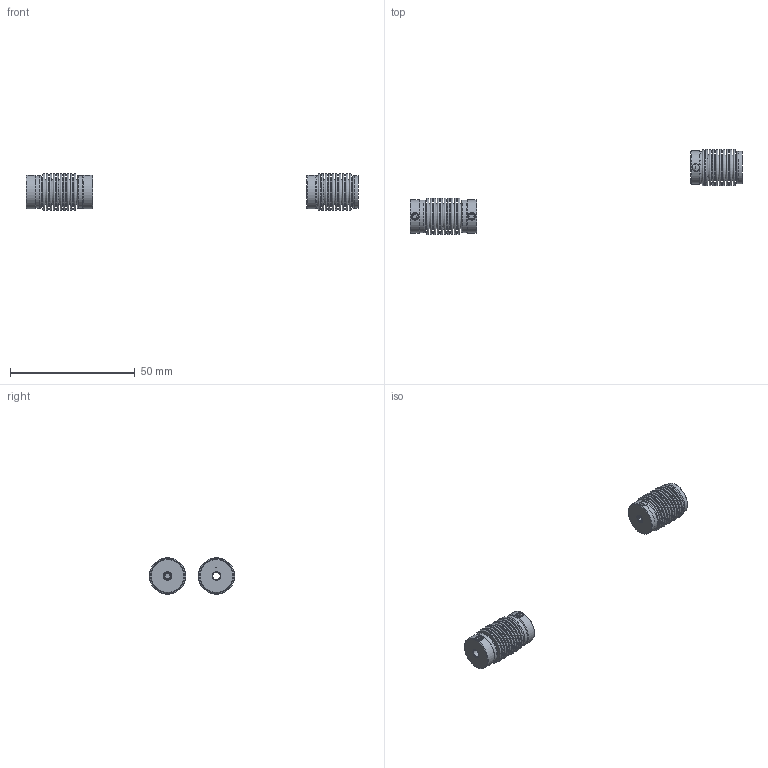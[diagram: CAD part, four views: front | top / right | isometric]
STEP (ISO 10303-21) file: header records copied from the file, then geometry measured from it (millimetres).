
FILE_DESCRIPTION( ( 'Unknown' ), '1' );
FILE_NAME( 'C:/Dokumente und Einstellungen/Sven/Desktop/cad - homepage/KB1/KB1-5-27.stp', 'Unknown', ( 'Unknown' ), ( 'Unknown' ), 'XStep 1.0', 'Unknown', ' ' );
FILE_SCHEMA( ( 'automotive_design' ) );
Length unit declared in the file: millimetre
Products named in the file (4): Assem1; MN5_Standard_1; Socket Set Screw Cup Point_DIN_DIN 916 - M3 x 4-N_5; BL5_Standard
Bounding box: 133.13 x 34.16 x 14.59 mm (x, y, z)
Volume: 2788.7 mm3; surface area: 11553.3 mm2
Topology: 8 solids, 8 shells, 258 faces, 461 edges, 301 vertices
Faces by surface type: plane 122, torus 92, cylinder 23, cone 21
Full cylindrical faces by diameter (mm): 3 x9, 12.9 x7, 13.1 x4, 13.5 x3
Entity records: 2665 total; most frequent: DIRECTION 488, CARTESIAN_POINT 428, ORIENTED_EDGE 260, AXIS2_PLACEMENT_3D 235, EDGE_LOOP 230, FACE_OUTER_BOUND 173, EDGE_CURVE 130, VERTEX_POINT 125
